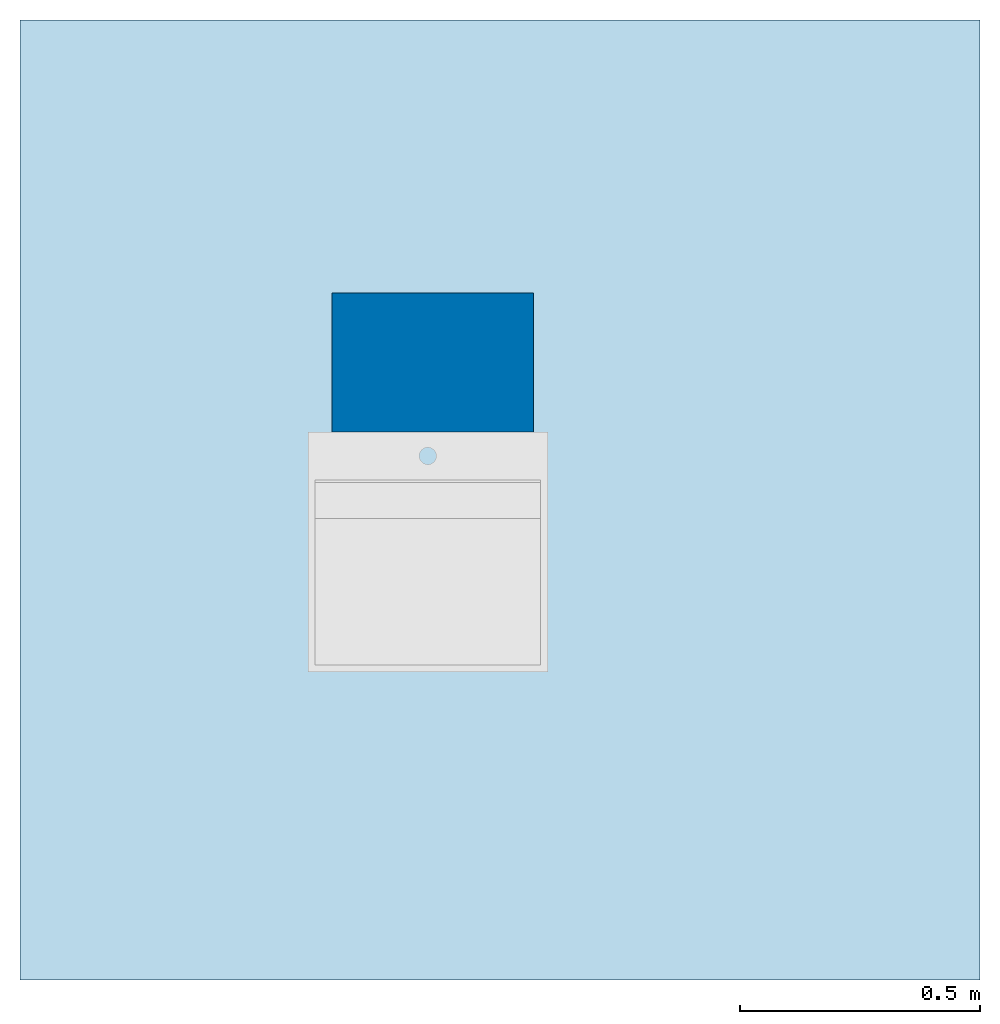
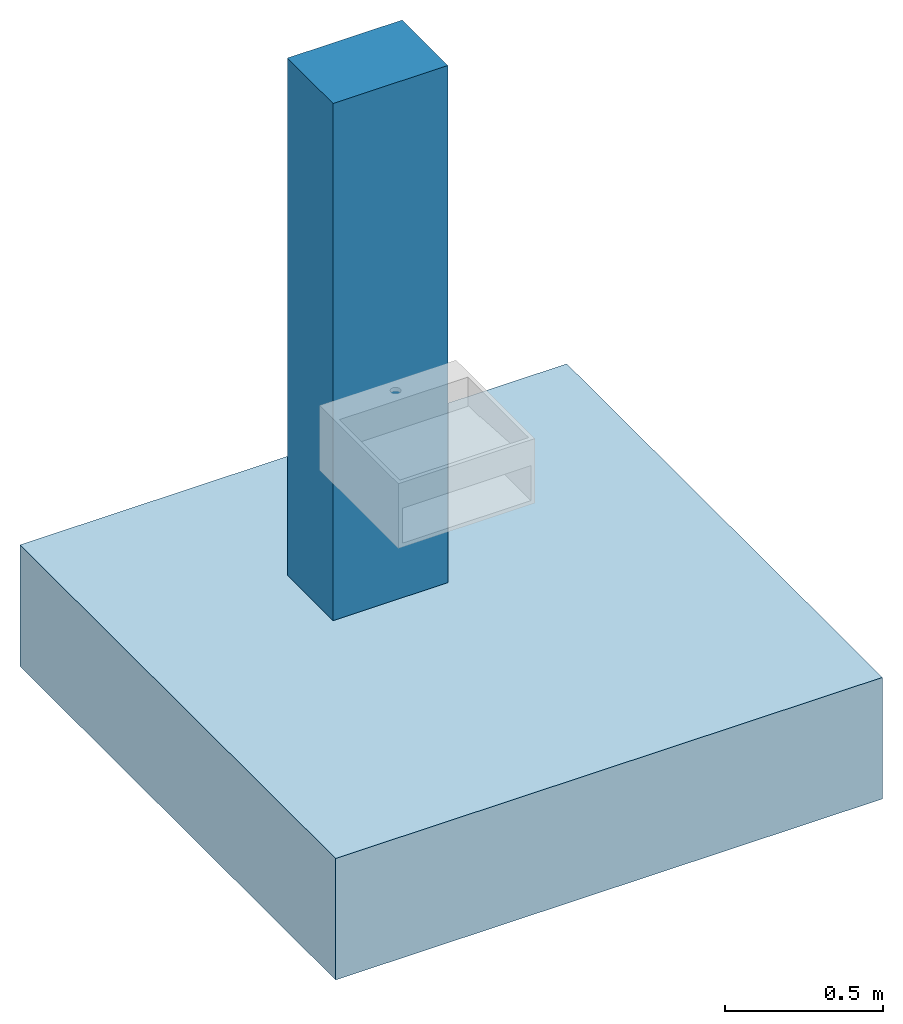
# One storey, part 1 of 2: 1 slab, 1 wall.
"""IFC2X3 building model written with IfcOpenShell, lengths in millimetres."""

from ifc_helpers import new_model, entity, si_unit, converted_unit, derived_unit, direction, frame, frame_2d, origin, origin_2d_with_axis, place, context, subcontext, project, spatial, rectangle, extrude, material, layer, layer_set, layer_usage, type_object, element, save


model = new_model("IFC2X3")

# Units and contexts
model_context = context("Model", 3, precision=0.01, world=origin(), true_north=direction((6.12303176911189e-17, 1.0)))
context_of_model = context(None, 3, precision=0.01, world=origin(), true_north=direction((6.12303176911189e-17, 1.0)))
body_context = subcontext(model_context, "Body", "Model", "MODEL_VIEW")
ifc_project = project(units=[si_unit("LENGTHUNIT", "METRE", prefix="MILLI"), si_unit("AREAUNIT", "SQUARE_METRE"), si_unit("VOLUMEUNIT", "CUBIC_METRE"), converted_unit("PLANEANGLEUNIT", "DEGREE", entity("IfcRatioMeasure", 0.0174532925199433), si_unit("PLANEANGLEUNIT", "RADIAN"), dimensions=[0, 0, 0, 0, 0, 0, 0]), si_unit("MASSUNIT", "GRAM", prefix="KILO"), derived_unit("MASSDENSITYUNIT", [(si_unit("MASSUNIT", "GRAM", prefix="KILO"), 1), (si_unit("LENGTHUNIT", "METRE"), -3)]), si_unit("TIMEUNIT", "SECOND"), si_unit("FREQUENCYUNIT", "HERTZ"), si_unit("THERMODYNAMICTEMPERATUREUNIT", "DEGREE_CELSIUS"), derived_unit("THERMALTRANSMITTANCEUNIT", [(si_unit("MASSUNIT", "GRAM", prefix="KILO"), 1), (si_unit("THERMODYNAMICTEMPERATUREUNIT", "KELVIN"), -1), (si_unit("TIMEUNIT", "SECOND"), -3)]), derived_unit("VOLUMETRICFLOWRATEUNIT", [(si_unit("LENGTHUNIT", "METRE"), 3), (si_unit("TIMEUNIT", "SECOND"), -1)]), si_unit("ELECTRICCURRENTUNIT", "AMPERE"), si_unit("ELECTRICVOLTAGEUNIT", "VOLT"), si_unit("POWERUNIT", "WATT"), si_unit("FORCEUNIT", "NEWTON", prefix="KILO"), si_unit("ILLUMINANCEUNIT", "LUX"), si_unit("LUMINOUSFLUXUNIT", "LUMEN"), si_unit("LUMINOUSINTENSITYUNIT", "CANDELA"), derived_unit("USERDEFINED", [(si_unit("MASSUNIT", "GRAM", prefix="KILO"), -1), (si_unit("LENGTHUNIT", "METRE"), -2), (si_unit("TIMEUNIT", "SECOND"), 3), (si_unit("LUMINOUSFLUXUNIT", "LUMEN"), 1)]), derived_unit("LINEARVELOCITYUNIT", [(si_unit("LENGTHUNIT", "METRE"), 1), (si_unit("TIMEUNIT", "SECOND"), -1)]), si_unit("PRESSUREUNIT", "PASCAL"), derived_unit("USERDEFINED", [(si_unit("LENGTHUNIT", "METRE"), -2), (si_unit("MASSUNIT", "GRAM", prefix="KILO"), 1), (si_unit("TIMEUNIT", "SECOND"), -2)])], contexts=[model_context, context_of_model])

# Site, building, storey
site_placement = place(None, origin())
site = spatial("IfcSite", under=ifc_project, at=site_placement, Name="Default", CompositionType="ELEMENT")
building_placement = place(site_placement, origin())
building = spatial("IfcBuilding", under=site, at=building_placement, Name="n/a", CompositionType="ELEMENT")
storey_placement = place(building_placement, origin())
storey = spatial("IfcBuildingStorey", under=building, at=storey_placement, Name="Level 0", CompositionType="ELEMENT", Elevation=0.0)

# Slab
ifc_material_1 = material(Name="Concrete, Sand/Cement Screed")
ifc_layer_1 = layer(ifc_material_1, 65.0)
ifc_material_2 = material(Name="Rigid insulation")
ifc_layer_2 = layer(ifc_material_2, 80.0)
ifc_material_3 = material(Name="Air")
ifc_layer_3 = layer(ifc_material_3, 150.0)
ifc_material_4 = material(Name="Concrete Masonry, Floor Block")
ifc_layer_4 = layer(ifc_material_4, 100.0)
ifc_material_5 = material(Name="Concrete, Precast")
ifc_layer_5 = layer(ifc_material_5, 75.0)
ifc_layer_set_1 = layer_set([ifc_layer_1, ifc_layer_2, ifc_layer_3, ifc_layer_4, ifc_layer_5], Name="Floor:Floor-Grnd-Susp_65Scr-80Ins-100Blk-75PC")
ifc_layer_usage_1 = layer_usage(ifc_layer_set_1, "AXIS3", "POSITIVE", 0.0)
slab_type = type_object("IfcSlabType", PredefinedType="FLOOR", material=ifc_layer_set_1)
slab_placement = place(storey_placement, origin())
element("IfcSlab", 1, at=slab_placement, inside=storey, type_object=slab_type, material=ifc_layer_usage_1, Name="(4)", ObjectType="Floor:Floor-Grnd-Susp_65Scr-80Ins-100Blk-75PC", PredefinedType="FLOOR", context=body_context, shape_type="SweptSolid", body=[
    extrude(rectangle(XDim=2000.0, YDim=2000.0, at=origin_2d_with_axis()), frame((2617.89542022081, 511.02004687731, 0.0), z_axis=(0.0, 0.0, -1.0), x_axis=(0.0, 1.0, 0.0)), (0.0, 0.0, 1.0), 470.0),
])

# Wall
ifc_material_6 = material(Name="Brick, Common")
ifc_layer_6 = layer(ifc_material_6, 102.5)
ifc_material_7 = material(Name="Fiberglass Batt")
ifc_layer_7 = layer(ifc_material_7, 75.0)
ifc_material_8 = material(Name="Concrete Masonry Units _Low Density")
ifc_layer_8 = layer(ifc_material_8, 100.0)
ifc_material_9 = material(Name="Plaster")
ifc_layer_9 = layer(ifc_material_9, 12.5)
ifc_layer_set_2 = layer_set([ifc_layer_6, ifc_layer_7, ifc_layer_8, ifc_layer_9], Name="Basic Wall:Wall-Ext_102Bwk-75Ins-100LBlk-12P")
ifc_layer_usage_2 = layer_usage(ifc_layer_set_2, "AXIS2", "NEGATIVE", 145.0)
wall_type = type_object("IfcWallType", PredefinedType="STANDARD", material=ifc_layer_set_2)
wall_placement = place(storey_placement, frame((2267.55113487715, 797.680190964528, 0.0)))
element("IfcWallStandardCase", 2, at=wall_placement, inside=storey, type_object=wall_type, material=ifc_layer_usage_2, Name="(6)", ObjectType="Basic Wall:Wall-Ext_102Bwk-75Ins-100LBlk-12P", context=body_context, shape_type="SweptSolid", body=[
    extrude(rectangle(XDim=420.0, YDim=290.0, at=frame_2d((210.0, 0.0), x_axis=(-1.0, 0.0))), origin(), (0.0, 0.0, 1.0), 2000.0),
])

save(model, "model.ifc")
